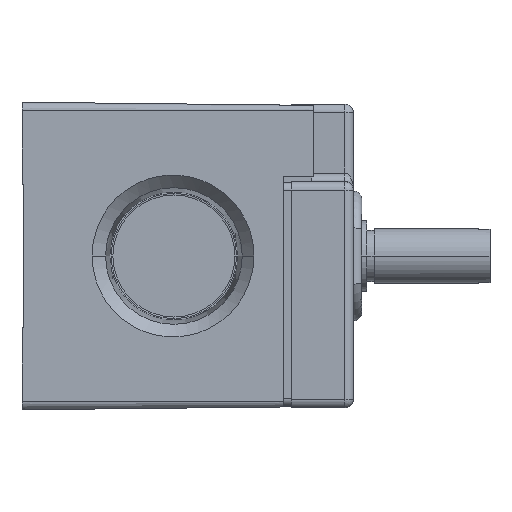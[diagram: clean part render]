
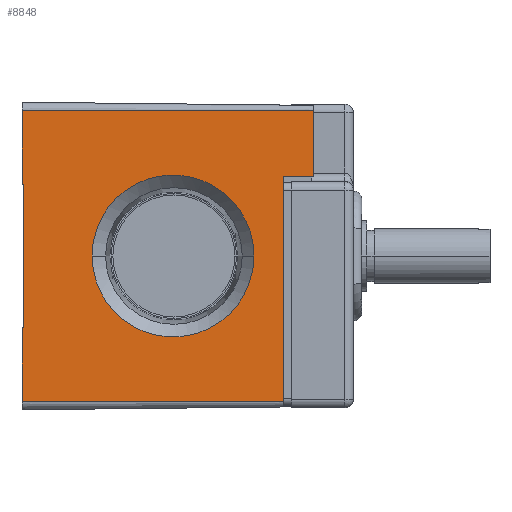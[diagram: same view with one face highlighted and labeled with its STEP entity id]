
A CAD part, front view. The second image highlights one B-rep face of the part: STEP entity #8848.
In plain terms, the highlighted planar face has unit normal (0.011, -1, 0).
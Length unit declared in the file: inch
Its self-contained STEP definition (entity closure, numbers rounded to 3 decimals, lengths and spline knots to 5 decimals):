
#1440=DIRECTION('',(0.,0.,1.));
#1441=VECTOR('',#1440,0.756);
#1442=CARTESIAN_POINT('',(-0.835,-3.20389,-0.378));
#1443=LINE('',#1442,#1441);
#1444=DIRECTION('',(1.,0.011,0.));
#1445=VECTOR('',#1444,0.01);
#1446=CARTESIAN_POINT('',(-0.845,-3.204,0.378));
#1447=LINE('',#1446,#1445);
#1448=DIRECTION('',(0.,0.,1.));
#1449=VECTOR('',#1448,0.387);
#1450=CARTESIAN_POINT('',(-0.845,-3.204,0.378));
#1451=LINE('',#1450,#1449);
#1452=DIRECTION('',(0.,0.,1.));
#1453=VECTOR('',#1452,0.348);
#1454=CARTESIAN_POINT('',(0.69,-3.18739,0.417));
#1455=LINE('',#1454,#1453);
#1456=DIRECTION('',(-1.,-0.011,0.));
#1457=VECTOR('',#1456,0.16001);
#1458=CARTESIAN_POINT('',(0.69,-3.18739,0.417));
#1459=LINE('',#1458,#1457);
#1460=DIRECTION('',(0.,0.,1.));
#1461=VECTOR('',#1460,0.387);
#1462=CARTESIAN_POINT('',(-0.845,-3.204,-0.765));
#1463=LINE('',#1462,#1461);
#1464=DIRECTION('',(1.,0.011,0.));
#1465=VECTOR('',#1464,0.01);
#1466=CARTESIAN_POINT('',(-0.845,-3.204,-0.378));
#1467=LINE('',#1466,#1465);
#1468=CARTESIAN_POINT('',(0.37678,-3.19078,0.));
#1469=CARTESIAN_POINT('',(0.37678,-3.19078,
-0.02512));
#1470=CARTESIAN_POINT('',(0.37232,-3.19083,
-0.07725));
#1471=CARTESIAN_POINT('',(0.34969,-3.19107,
-0.15743));
#1472=CARTESIAN_POINT('',(0.30997,-3.1915,
-0.23469));
#1473=CARTESIAN_POINT('',(0.25407,-3.19211,
-0.30367));
#1474=CARTESIAN_POINT('',(0.19659,-3.19273,
-0.35024));
#1475=CARTESIAN_POINT('',(0.14646,-3.19327,
-0.37943));
#1476=CARTESIAN_POINT('',(0.10746,-3.19369,
-0.39714));
#1477=CARTESIAN_POINT('',(0.06773,-3.19412,
-0.4106));
#1478=CARTESIAN_POINT('',(0.03453,-3.19448,
-0.41836));
#1479=CARTESIAN_POINT('',(0.00822,-3.19477,
-0.42258));
#1480=CARTESIAN_POINT('',(-0.01134,-3.19498,
-0.4248));
#1481=CARTESIAN_POINT('',(-0.02743,-3.19515,
-0.42587));
#1482=CARTESIAN_POINT('',(-0.04017,-3.19529,
-0.4263));
#1483=CARTESIAN_POINT('',(-0.04961,-3.19539,
-0.4264));
#1484=CARTESIAN_POINT('',(-0.05906,-3.19549,
-0.4263));
#1485=CARTESIAN_POINT('',(-0.07179,-3.19563,
-0.42587));
#1486=CARTESIAN_POINT('',(-0.08789,-3.19581,
-0.4248));
#1487=CARTESIAN_POINT('',(-0.10744,-3.19602,
-0.42258));
#1488=CARTESIAN_POINT('',(-0.13376,-3.1963,
-0.41836));
#1489=CARTESIAN_POINT('',(-0.16696,-3.19666,
-0.4106));
#1490=CARTESIAN_POINT('',(-0.20669,-3.19709,
-0.39714));
#1491=CARTESIAN_POINT('',(-0.24569,-3.19751,
-0.37943));
#1492=CARTESIAN_POINT('',(-0.29582,-3.19806,
-0.35024));
#1493=CARTESIAN_POINT('',(-0.3533,-3.19868,
-0.30367));
#1494=CARTESIAN_POINT('',(-0.4092,-3.19928,
-0.23469));
#1495=CARTESIAN_POINT('',(-0.44892,-3.19971,
-0.15743));
#1496=CARTESIAN_POINT('',(-0.47154,-3.19996,
-0.07725));
#1497=CARTESIAN_POINT('',(-0.47601,-3.20001,
-0.02512));
#1498=CARTESIAN_POINT('',(-0.47601,-3.20001,0.));
#1500=CARTESIAN_POINT('',(-0.47601,-3.20001,0.));
#1501=CARTESIAN_POINT('',(-0.47601,-3.20001,
0.02512));
#1502=CARTESIAN_POINT('',(-0.47154,-3.19996,
0.07725));
#1503=CARTESIAN_POINT('',(-0.44892,-3.19971,
0.15743));
#1504=CARTESIAN_POINT('',(-0.4092,-3.19928,
0.23469));
#1505=CARTESIAN_POINT('',(-0.3533,-3.19868,
0.30367));
#1506=CARTESIAN_POINT('',(-0.29582,-3.19806,
0.35024));
#1507=CARTESIAN_POINT('',(-0.24569,-3.19751,
0.37943));
#1508=CARTESIAN_POINT('',(-0.20669,-3.19709,
0.39714));
#1509=CARTESIAN_POINT('',(-0.16696,-3.19666,
0.4106));
#1510=CARTESIAN_POINT('',(-0.13376,-3.1963,
0.41836));
#1511=CARTESIAN_POINT('',(-0.10744,-3.19602,
0.42258));
#1512=CARTESIAN_POINT('',(-0.08789,-3.19581,
0.4248));
#1513=CARTESIAN_POINT('',(-0.07179,-3.19563,
0.42587));
#1514=CARTESIAN_POINT('',(-0.05906,-3.19549,
0.4263));
#1515=CARTESIAN_POINT('',(-0.04961,-3.19539,
0.4264));
#1516=CARTESIAN_POINT('',(-0.04017,-3.19529,
0.4263));
#1517=CARTESIAN_POINT('',(-0.02743,-3.19515,
0.42587));
#1518=CARTESIAN_POINT('',(-0.01134,-3.19498,
0.4248));
#1519=CARTESIAN_POINT('',(0.00822,-3.19477,
0.42258));
#1520=CARTESIAN_POINT('',(0.03453,-3.19448,
0.41836));
#1521=CARTESIAN_POINT('',(0.06773,-3.19412,
0.4106));
#1522=CARTESIAN_POINT('',(0.10746,-3.19369,
0.39714));
#1523=CARTESIAN_POINT('',(0.14646,-3.19327,
0.37943));
#1524=CARTESIAN_POINT('',(0.19659,-3.19273,
0.35024));
#1525=CARTESIAN_POINT('',(0.25407,-3.19211,
0.30367));
#1526=CARTESIAN_POINT('',(0.30997,-3.1915,
0.23469));
#1527=CARTESIAN_POINT('',(0.34969,-3.19107,
0.15743));
#1528=CARTESIAN_POINT('',(0.37232,-3.19083,
0.07725));
#1529=CARTESIAN_POINT('',(0.37678,-3.19078,
0.02512));
#1530=CARTESIAN_POINT('',(0.37678,-3.19078,0.));
#1845=DIRECTION('',(0.,0.,1.));
#1846=VECTOR('',#1845,1.182);
#1847=CARTESIAN_POINT('',(0.53,-3.18912,-0.765));
#1848=LINE('',#1847,#1846);
#3545=DIRECTION('',(1.,0.011,0.));
#3546=VECTOR('',#3545,1.53509);
#3547=CARTESIAN_POINT('',(-0.845,-3.204,0.765));
#3548=LINE('',#3547,#3546);
#3973=DIRECTION('',(1.,0.011,0.));
#3974=VECTOR('',#3973,1.37508);
#3975=CARTESIAN_POINT('',(-0.845,-3.204,-0.765));
#3976=LINE('',#3975,#3974);
#6479=CARTESIAN_POINT('',(0.69,-3.18739,0.417));
#6480=CARTESIAN_POINT('',(0.53,-3.18912,0.417));
#6481=VERTEX_POINT('',#6479);
#6482=VERTEX_POINT('',#6480);
#6487=CARTESIAN_POINT('',(-0.845,-3.204,0.765));
#6488=CARTESIAN_POINT('',(0.69,-3.18739,0.765));
#6489=VERTEX_POINT('',#6487);
#6490=VERTEX_POINT('',#6488);
#6495=CARTESIAN_POINT('',(-0.845,-3.204,-0.765));
#6496=CARTESIAN_POINT('',(0.53,-3.18912,-0.765));
#6497=VERTEX_POINT('',#6495);
#6498=VERTEX_POINT('',#6496);
#6515=CARTESIAN_POINT('',(-0.835,-3.20389,-0.378));
#6516=CARTESIAN_POINT('',(-0.835,-3.20389,0.378));
#6517=VERTEX_POINT('',#6515);
#6518=VERTEX_POINT('',#6516);
#6519=CARTESIAN_POINT('',(-0.845,-3.204,-0.378));
#6520=VERTEX_POINT('',#6519);
#6521=CARTESIAN_POINT('',(-0.845,-3.204,0.378));
#6522=VERTEX_POINT('',#6521);
#6523=VERTEX_POINT('',#1468);
#6524=VERTEX_POINT('',#1498);
#8818=CARTESIAN_POINT('',(-0.845,-3.204,-1.81479));
#8819=DIRECTION('',(0.011,-1.,0.));
#8820=DIRECTION('',(0.,0.,1.));
#8821=AXIS2_PLACEMENT_3D('',#8818,#8819,#8820);
#8822=PLANE('',#8821);
#8823=ORIENTED_EDGE('',*,*,#8717,.T.);
#8825=ORIENTED_EDGE('',*,*,#8824,.F.);
#8827=ORIENTED_EDGE('',*,*,#8826,.T.);
#8829=ORIENTED_EDGE('',*,*,#8828,.T.);
#8831=ORIENTED_EDGE('',*,*,#8830,.F.);
#8833=ORIENTED_EDGE('',*,*,#8832,.T.);
#8835=ORIENTED_EDGE('',*,*,#8834,.F.);
#8837=ORIENTED_EDGE('',*,*,#8836,.F.);
#8838=ORIENTED_EDGE('',*,*,#8791,.T.);
#8839=ORIENTED_EDGE('',*,*,#8813,.T.);
#8840=EDGE_LOOP('',(#8823,#8825,#8827,#8829,#8831,#8833,#8835,#8837,#8838,
#8839));
#8841=FACE_OUTER_BOUND('',#8840,.F.);
#8843=ORIENTED_EDGE('',*,*,#8842,.F.);
#8845=ORIENTED_EDGE('',*,*,#8844,.F.);
#8846=EDGE_LOOP('',(#8843,#8845));
#8847=FACE_BOUND('',#8846,.F.);
#8848=ADVANCED_FACE('',(#8841,#8847),#8822,.T.);
#1499=B_SPLINE_CURVE_WITH_KNOTS('',3,(#1468,#1469,#1470,#1471,#1472,#1473,#1474,
#1475,#1476,#1477,#1478,#1479,#1480,#1481,#1482,#1483,#1484,#1485,#1486,#1487,
#1488,#1489,#1490,#1491,#1492,#1493,#1494,#1495,#1496,#1497,#1498),
.UNSPECIFIED.,.F.,.F.,(4,1,1,1,1,1,1,1,1,1,1,1,1,1,1,1,1,1,1,1,1,1,1,1,1,1,1,1,
4),(0.,0.0625,0.125,0.1875,0.25,0.3125,0.34375,0.375,0.40625,
0.4375,0.45313,0.46875,0.48438,0.49219,0.5,0.50781,
0.51563,0.53125,0.54688,0.5625,0.59375,0.625,0.65625,0.6875,
0.75,0.8125,0.875,0.9375,1.),.UNSPECIFIED.);
#1531=B_SPLINE_CURVE_WITH_KNOTS('',3,(#1500,#1501,#1502,#1503,#1504,#1505,#1506,
#1507,#1508,#1509,#1510,#1511,#1512,#1513,#1514,#1515,#1516,#1517,#1518,#1519,
#1520,#1521,#1522,#1523,#1524,#1525,#1526,#1527,#1528,#1529,#1530),
.UNSPECIFIED.,.F.,.F.,(4,1,1,1,1,1,1,1,1,1,1,1,1,1,1,1,1,1,1,1,1,1,1,1,1,1,1,1,
4),(0.,0.0625,0.125,0.1875,0.25,0.3125,0.34375,0.375,0.40625,
0.4375,0.45313,0.46875,0.48438,0.49219,0.5,0.50781,
0.51563,0.53125,0.54688,0.5625,0.59375,0.625,0.65625,0.6875,
0.75,0.8125,0.875,0.9375,1.),.UNSPECIFIED.);
#8717=EDGE_CURVE('',#6517,#6518,#1443,.T.);
#8791=EDGE_CURVE('',#6497,#6520,#1463,.T.);
#8813=EDGE_CURVE('',#6520,#6517,#1467,.T.);
#8824=EDGE_CURVE('',#6522,#6518,#1447,.T.);
#8826=EDGE_CURVE('',#6522,#6489,#1451,.T.);
#8828=EDGE_CURVE('',#6489,#6490,#3548,.T.);
#8830=EDGE_CURVE('',#6481,#6490,#1455,.T.);
#8832=EDGE_CURVE('',#6481,#6482,#1459,.T.);
#8834=EDGE_CURVE('',#6498,#6482,#1848,.T.);
#8836=EDGE_CURVE('',#6497,#6498,#3976,.T.);
#8842=EDGE_CURVE('',#6523,#6524,#1499,.T.);
#8844=EDGE_CURVE('',#6524,#6523,#1531,.T.);
